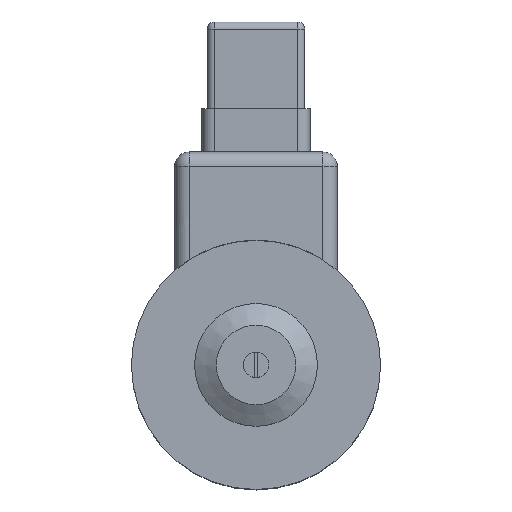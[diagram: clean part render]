
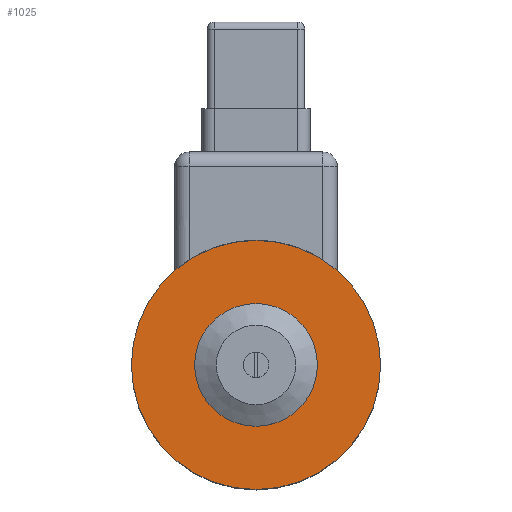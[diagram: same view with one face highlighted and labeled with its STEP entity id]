
A CAD part, top view. The second image highlights one B-rep face of the part: STEP entity #1025.
In plain terms, the highlighted planar face has unit normal (0, 0, 1).
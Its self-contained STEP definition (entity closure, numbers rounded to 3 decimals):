
#1025 = ADVANCED_FACE( '', ( #1527, #1528 ), #1529, .F. );
#1527 = FACE_BOUND( '', #3927, .T. );
#1528 = FACE_OUTER_BOUND( '', #3928, .T. );
#1529 = PLANE( '', #3929 );
#3927 = EDGE_LOOP( '', ( #4928 ) );
#3928 = EDGE_LOOP( '', ( #4929 ) );
#3929 = AXIS2_PLACEMENT_3D( '', #4930, #4931, #4932 );
#4928 = ORIENTED_EDGE( '', *, *, #5587, .T. );
#4929 = ORIENTED_EDGE( '', *, *, #5578, .F. );
#4930 = CARTESIAN_POINT( '', ( 0., 0., 60. ) );
#4931 = DIRECTION( '', ( 0., 0., -1. ) );
#4932 = DIRECTION( '', ( -1., 0., 0. ) );
#5578 = EDGE_CURVE( '', #6078, #6078, #6079, .T. );
#5587 = EDGE_CURVE( '', #6095, #6095, #6096, .T. );
#6078 = VERTEX_POINT( '', #7037 );
#6079 = CIRCLE( '', #7038, 34.5 );
#6095 = VERTEX_POINT( '', #7103 );
#6096 = CIRCLE( '', #7104, 13.75 );
#7037 = CARTESIAN_POINT( '', ( 34.5, 0., 60. ) );
#7038 = AXIS2_PLACEMENT_3D( '', #7828, #7829, #7830 );
#7103 = CARTESIAN_POINT( '', ( 13.75, 0., 60. ) );
#7104 = AXIS2_PLACEMENT_3D( '', #7842, #7843, #7844 );
#7828 = CARTESIAN_POINT( '', ( 0., 0., 60. ) );
#7829 = DIRECTION( '', ( 0., 0., -1. ) );
#7830 = DIRECTION( '', ( 1., 0., 0. ) );
#7842 = CARTESIAN_POINT( '', ( 0., 0., 60. ) );
#7843 = DIRECTION( '', ( 0., 0., -1. ) );
#7844 = DIRECTION( '', ( 1., 0., 0. ) );
